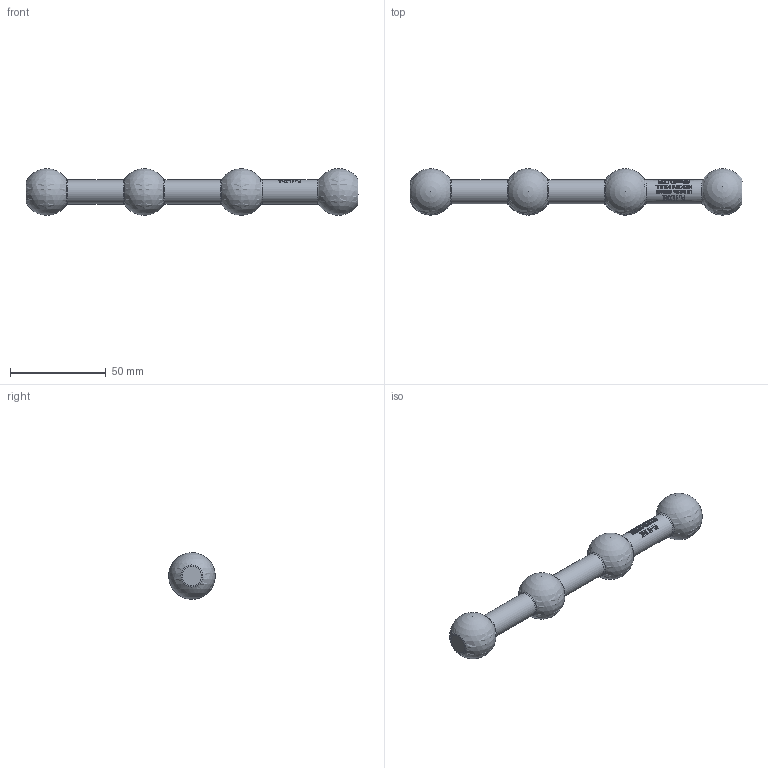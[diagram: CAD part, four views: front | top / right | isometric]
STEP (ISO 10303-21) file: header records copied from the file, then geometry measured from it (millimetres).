
FILE_DESCRIPTION(/* description */ (''),/* implementation_level */ '2;1');
FILE_NAME(/* name */ 'C:\Users\owner\Desktop\PL-HYPERLINKS_3D_stp\PL-HLINK6IN.stp',/* time_stamp */ '2017-09-29T14:58:56-04:00',/* author */ ('owner'),/* organization */ (''),/* preprocessor_version */ 'ST-DEVELOPER v16.5',/* originating_system */ 'Autodesk Inventor 2017',/* authorisation */ '');
FILE_SCHEMA (('CONFIG_CONTROL_DESIGN'));
Length unit declared in the file: inch
Products named in the file (4): PL-HLINK6IN; 60032; 60033-1; 60033-2
Assembly tree (4 placements, depth 2):
  PL-HLINK6IN
    60033-1  x2
    60032
    60033-2
Bounding box: 173.41 x 24.28 x 24.37 mm (x, y, z)
Volume: 39208.9 mm3; surface area: 13731 mm2
Topology: 4 solids, 4 shells, 764 faces, 2049 edges, 1361 vertices
Faces by surface type: plane 356, bspline 302, cylinder 78, torus 13, cone 11, sphere 4
Full cylindrical faces by diameter (mm): 9.487 x3, 9.525 x4, 9.588 x3, 12.611 x3
Entity records: 29050 total; most frequent: CARTESIAN_POINT 11942, ORIENTED_EDGE 3956, DIRECTION 2704, EDGE_CURVE 1978, VERTEX_POINT 1326, LINE 966, VECTOR 966, AXIS2_PLACEMENT_3D 869
